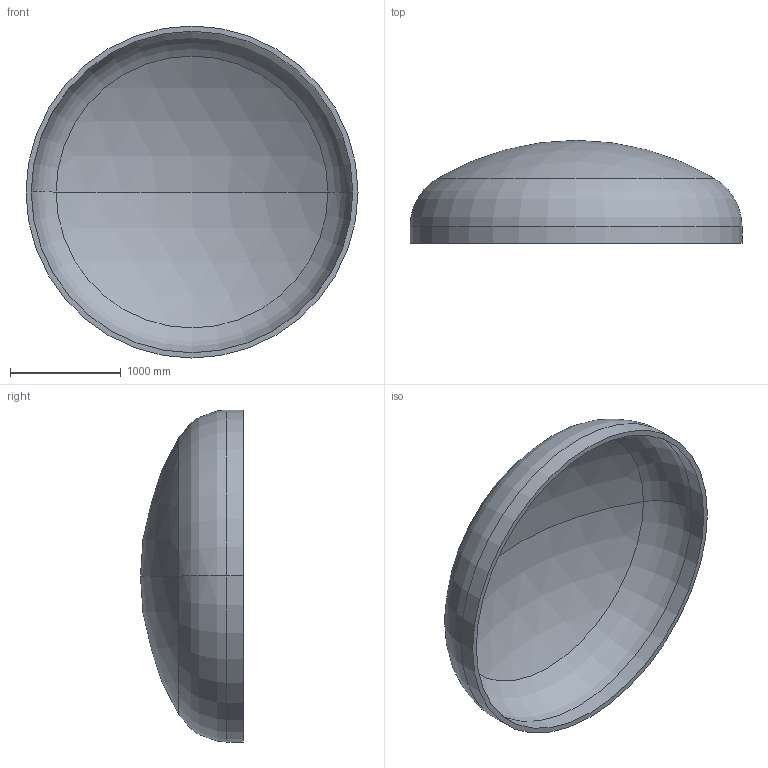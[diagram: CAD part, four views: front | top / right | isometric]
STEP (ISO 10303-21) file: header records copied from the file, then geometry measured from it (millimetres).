
FILE_DESCRIPTION (( 'STEP AP203' ), '1' );
FILE_NAME ('DIN 28013 Korbbogenform_-_Boden DIN 28013 - 3000 x 150 - I - s=47.step', '2016-07-01T17:50:10', ( '' ), ( '' ), 'SwSTEP 2.0', 'SolidWorks 2013', '' );
FILE_SCHEMA (( 'CONFIG_CONTROL_DESIGN' ));
Length unit declared in the file: millimetre
Products named in the file (1): DIN 28013 Korbbogenform_-_Boden DIN 28013 - 3000 x 150 - I - s=47
Bounding box: 3000 x 930.4 x 3000 mm (x, y, z)
Volume: 515724465.7 mm3; surface area: 22386365.8 mm2
Topology: 1 solids, 1 shells, 13 faces, 24 edges, 14 vertices
Faces by surface type: torus 4, cylinder 4, sphere 4, plane 1
Entity records: 407 total; most frequent: DIRECTION 72, CARTESIAN_POINT 52, ORIENTED_EDGE 48, AXIS2_PLACEMENT_3D 34, EDGE_CURVE 24, CIRCLE 20, VERTEX_POINT 14, EDGE_LOOP 14
